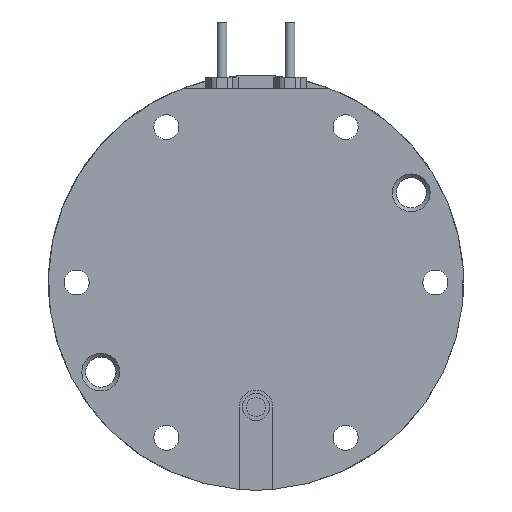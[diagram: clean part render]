
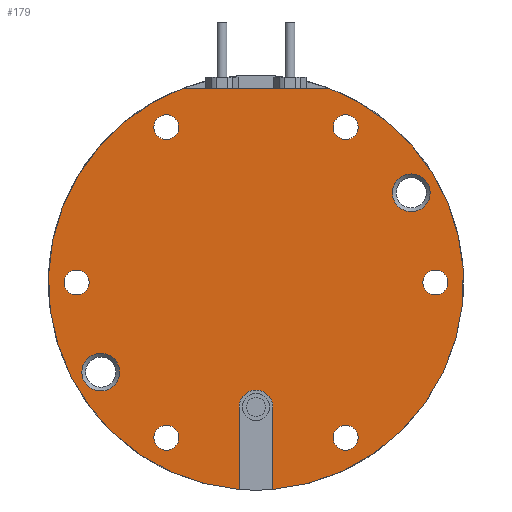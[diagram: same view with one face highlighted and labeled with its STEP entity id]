
A CAD part, front view. The second image highlights one B-rep face of the part: STEP entity #179.
In plain terms, the highlighted planar face has unit normal (0, -1, 0).
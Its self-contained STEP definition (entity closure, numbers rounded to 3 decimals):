
#179 = ADVANCED_FACE( '', ( #440, #441, #442, #443, #444, #445, #446, #447, #448 ), #449, .F. );
#440 = FACE_OUTER_BOUND( '', #1066, .T. );
#441 = FACE_BOUND( '', #1067, .T. );
#442 = FACE_BOUND( '', #1068, .T. );
#443 = FACE_BOUND( '', #1069, .T. );
#444 = FACE_BOUND( '', #1070, .T. );
#445 = FACE_BOUND( '', #1071, .T. );
#446 = FACE_BOUND( '', #1072, .T. );
#447 = FACE_BOUND( '', #1073, .T. );
#448 = FACE_BOUND( '', #1074, .T. );
#449 = PLANE( '', #1075 );
#1066 = EDGE_LOOP( '', ( #1770, #1771, #1772, #1773, #1774, #1775, #1776, #1777 ) );
#1067 = EDGE_LOOP( '', ( #1778 ) );
#1068 = EDGE_LOOP( '', ( #1779 ) );
#1069 = EDGE_LOOP( '', ( #1780 ) );
#1070 = EDGE_LOOP( '', ( #1781 ) );
#1071 = EDGE_LOOP( '', ( #1782 ) );
#1072 = EDGE_LOOP( '', ( #1783 ) );
#1073 = EDGE_LOOP( '', ( #1784 ) );
#1074 = EDGE_LOOP( '', ( #1785 ) );
#1075 = AXIS2_PLACEMENT_3D( '', #1786, #1787, #1788 );
#1770 = ORIENTED_EDGE( '', *, *, #3361, .T. );
#1771 = ORIENTED_EDGE( '', *, *, #3304, .T. );
#1772 = ORIENTED_EDGE( '', *, *, #3362, .F. );
#1773 = ORIENTED_EDGE( '', *, *, #3363, .F. );
#1774 = ORIENTED_EDGE( '', *, *, #3364, .F. );
#1775 = ORIENTED_EDGE( '', *, *, #3308, .T. );
#1776 = ORIENTED_EDGE( '', *, *, #3365, .F. );
#1777 = ORIENTED_EDGE( '', *, *, #3297, .T. );
#1778 = ORIENTED_EDGE( '', *, *, #3366, .F. );
#1779 = ORIENTED_EDGE( '', *, *, #3367, .F. );
#1780 = ORIENTED_EDGE( '', *, *, #3368, .F. );
#1781 = ORIENTED_EDGE( '', *, *, #3369, .F. );
#1782 = ORIENTED_EDGE( '', *, *, #3370, .F. );
#1783 = ORIENTED_EDGE( '', *, *, #3371, .F. );
#1784 = ORIENTED_EDGE( '', *, *, #3372, .F. );
#1785 = ORIENTED_EDGE( '', *, *, #3373, .F. );
#1786 = CARTESIAN_POINT( '', ( 55., 0., 0. ) );
#1787 = DIRECTION( '', ( 0., 1., 0. ) );
#1788 = DIRECTION( '', ( 0., 0., 1. ) );
#3297 = EDGE_CURVE( '', #3754, #3755, #3756, .T. );
#3304 = EDGE_CURVE( '', #3769, #3767, #3770, .T. );
#3308 = EDGE_CURVE( '', #3763, #3775, #3777, .T. );
#3361 = EDGE_CURVE( '', #3755, #3769, #3876, .T. );
#3362 = EDGE_CURVE( '', #3877, #3767, #3878, .T. );
#3363 = EDGE_CURVE( '', #3879, #3877, #3880, .T. );
#3364 = EDGE_CURVE( '', #3763, #3879, #3881, .T. );
#3365 = EDGE_CURVE( '', #3754, #3775, #3882, .T. );
#3366 = EDGE_CURVE( '', #3883, #3883, #3884, .T. );
#3367 = EDGE_CURVE( '', #3885, #3885, #3886, .T. );
#3368 = EDGE_CURVE( '', #3887, #3887, #3888, .T. );
#3369 = EDGE_CURVE( '', #3889, #3889, #3890, .T. );
#3370 = EDGE_CURVE( '', #3891, #3891, #3892, .T. );
#3371 = EDGE_CURVE( '', #3893, #3893, #3894, .T. );
#3372 = EDGE_CURVE( '', #3895, #3895, #3896, .T. );
#3373 = EDGE_CURVE( '', #3897, #3897, #3898, .T. );
#3754 = VERTEX_POINT( '', #4552 );
#3755 = VERTEX_POINT( '', #4553 );
#3756 = CIRCLE( '', #4554, 4.5 );
#3763 = VERTEX_POINT( '', #4563 );
#3767 = VERTEX_POINT( '', #4568 );
#3769 = VERTEX_POINT( '', #4571 );
#3770 = CIRCLE( '', #4572, 55. );
#3775 = VERTEX_POINT( '', #4578 );
#3777 = CIRCLE( '', #4581, 55. );
#3876 = LINE( '', #4706, #4707 );
#3877 = VERTEX_POINT( '', #4708 );
#3878 = LINE( '', #4709, #4710 );
#3879 = VERTEX_POINT( '', #4711 );
#3880 = LINE( '', #4712, #4713 );
#3881 = LINE( '', #4714, #4715 );
#3882 = LINE( '', #4716, #4717 );
#3883 = VERTEX_POINT( '', #4718 );
#3884 = CIRCLE( '', #4719, 5. );
#3885 = VERTEX_POINT( '', #4720 );
#3886 = CIRCLE( '', #4721, 5. );
#3887 = VERTEX_POINT( '', #4722 );
#3888 = CIRCLE( '', #4723, 3.3 );
#3889 = VERTEX_POINT( '', #4724 );
#3890 = CIRCLE( '', #4725, 3.3 );
#3891 = VERTEX_POINT( '', #4726 );
#3892 = CIRCLE( '', #4727, 3.3 );
#3893 = VERTEX_POINT( '', #4728 );
#3894 = CIRCLE( '', #4729, 3.3 );
#3895 = VERTEX_POINT( '', #4730 );
#3896 = CIRCLE( '', #4731, 3.3 );
#3897 = VERTEX_POINT( '', #4732 );
#3898 = CIRCLE( '', #4733, 3.3 );
#4552 = CARTESIAN_POINT( '', ( -33., 0., 4.5 ) );
#4553 = CARTESIAN_POINT( '', ( -33., 0., -4.5 ) );
#4554 = AXIS2_PLACEMENT_3D( '', #5667, #5668, #5669 );
#4563 = CARTESIAN_POINT( '', ( 51.614, 0., 19. ) );
#4568 = CARTESIAN_POINT( '', ( 51.614, 0., -19. ) );
#4571 = CARTESIAN_POINT( '', ( -54.816, 0., -4.5 ) );
#4572 = AXIS2_PLACEMENT_3D( '', #5680, #5681, #5682 );
#4578 = CARTESIAN_POINT( '', ( -54.816, 0., 4.5 ) );
#4581 = AXIS2_PLACEMENT_3D( '', #5688, #5689, #5690 );
#4706 = CARTESIAN_POINT( '', ( -33., 0., -4.5 ) );
#4707 = VECTOR( '', #5795, 1000. );
#4708 = CARTESIAN_POINT( '', ( 51.5, 0., -19. ) );
#4709 = CARTESIAN_POINT( '', ( 55., 0., -19. ) );
#4710 = VECTOR( '', #5796, 1000. );
#4711 = CARTESIAN_POINT( '', ( 51.5, 0., 19. ) );
#4712 = CARTESIAN_POINT( '', ( 51.5, 0., 0. ) );
#4713 = VECTOR( '', #5797, 1000. );
#4714 = CARTESIAN_POINT( '', ( 55., 0., 19. ) );
#4715 = VECTOR( '', #5798, 1000. );
#4716 = CARTESIAN_POINT( '', ( 55., 0., 4.5 ) );
#4717 = VECTOR( '', #5799, 1000. );
#4718 = CARTESIAN_POINT( '', ( 23.75, 0., -46.136 ) );
#4719 = AXIS2_PLACEMENT_3D( '', #5800, #5801, #5802 );
#4720 = CARTESIAN_POINT( '', ( -23.75, 0., 36.136 ) );
#4721 = AXIS2_PLACEMENT_3D( '', #5803, #5804, #5805 );
#4722 = CARTESIAN_POINT( '', ( 41.136, 0., 20.45 ) );
#4723 = AXIS2_PLACEMENT_3D( '', #5806, #5807, #5808 );
#4724 = CARTESIAN_POINT( '', ( 0., 0., 44.2 ) );
#4725 = AXIS2_PLACEMENT_3D( '', #5809, #5810, #5811 );
#4726 = CARTESIAN_POINT( '', ( -41.136, 0., 20.45 ) );
#4727 = AXIS2_PLACEMENT_3D( '', #5812, #5813, #5814 );
#4728 = CARTESIAN_POINT( '', ( -41.136, 0., -27.05 ) );
#4729 = AXIS2_PLACEMENT_3D( '', #5815, #5816, #5817 );
#4730 = CARTESIAN_POINT( '', ( 0., 0., -50.8 ) );
#4731 = AXIS2_PLACEMENT_3D( '', #5818, #5819, #5820 );
#4732 = CARTESIAN_POINT( '', ( 41.136, 0., -27.05 ) );
#4733 = AXIS2_PLACEMENT_3D( '', #5821, #5822, #5823 );
#5667 = CARTESIAN_POINT( '', ( -33., 0., 0. ) );
#5668 = DIRECTION( '', ( 0., 1., 0. ) );
#5669 = DIRECTION( '', ( 1., 0., 0. ) );
#5680 = CARTESIAN_POINT( '', ( 0., 0., 0. ) );
#5681 = DIRECTION( '', ( 0., -1., 0. ) );
#5682 = DIRECTION( '', ( 0., 0., -1. ) );
#5688 = CARTESIAN_POINT( '', ( 0., 0., 0. ) );
#5689 = DIRECTION( '', ( 0., -1., 0. ) );
#5690 = DIRECTION( '', ( 0., 0., -1. ) );
#5795 = DIRECTION( '', ( -1., 0., 0. ) );
#5796 = DIRECTION( '', ( 1., 0., 0. ) );
#5797 = DIRECTION( '', ( 0., 0., -1. ) );
#5798 = DIRECTION( '', ( -1., 0., 0. ) );
#5799 = DIRECTION( '', ( -1., 0., 0. ) );
#5800 = CARTESIAN_POINT( '', ( 23.75, 0., -41.136 ) );
#5801 = DIRECTION( '', ( 0., -1., 0. ) );
#5802 = DIRECTION( '', ( 0., 0., -1. ) );
#5803 = CARTESIAN_POINT( '', ( -23.75, 0., 41.136 ) );
#5804 = DIRECTION( '', ( 0., -1., 0. ) );
#5805 = DIRECTION( '', ( 0., 0., -1. ) );
#5806 = CARTESIAN_POINT( '', ( 41.136, 0., 23.75 ) );
#5807 = DIRECTION( '', ( 0., -1., 0. ) );
#5808 = DIRECTION( '', ( 0., 0., -1. ) );
#5809 = CARTESIAN_POINT( '', ( 0., 0., 47.5 ) );
#5810 = DIRECTION( '', ( 0., -1., 0. ) );
#5811 = DIRECTION( '', ( 0., 0., -1. ) );
#5812 = CARTESIAN_POINT( '', ( -41.136, 0., 23.75 ) );
#5813 = DIRECTION( '', ( 0., -1., 0. ) );
#5814 = DIRECTION( '', ( 0., 0., -1. ) );
#5815 = CARTESIAN_POINT( '', ( -41.136, 0., -23.75 ) );
#5816 = DIRECTION( '', ( 0., -1., 0. ) );
#5817 = DIRECTION( '', ( 0., 0., -1. ) );
#5818 = CARTESIAN_POINT( '', ( 0., 0., -47.5 ) );
#5819 = DIRECTION( '', ( 0., -1., 0. ) );
#5820 = DIRECTION( '', ( 0., 0., -1. ) );
#5821 = CARTESIAN_POINT( '', ( 41.136, 0., -23.75 ) );
#5822 = DIRECTION( '', ( 0., -1., 0. ) );
#5823 = DIRECTION( '', ( 0., 0., -1. ) );
